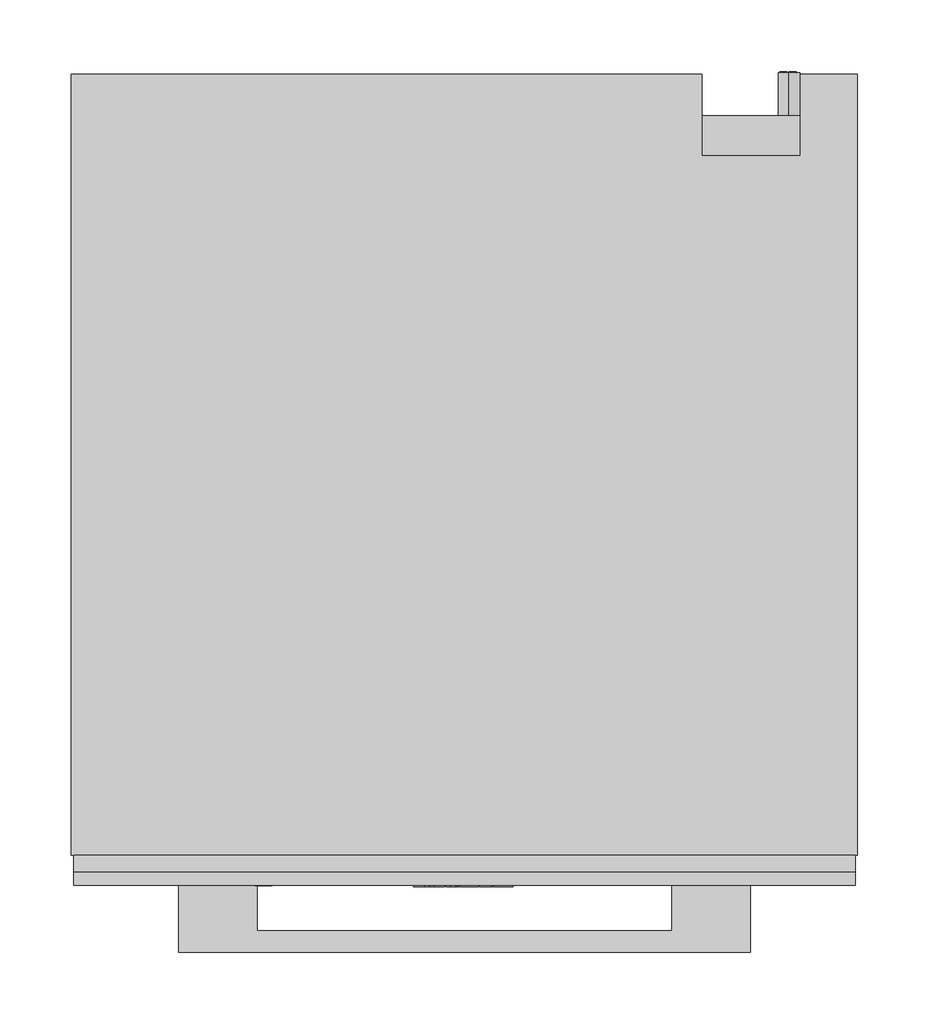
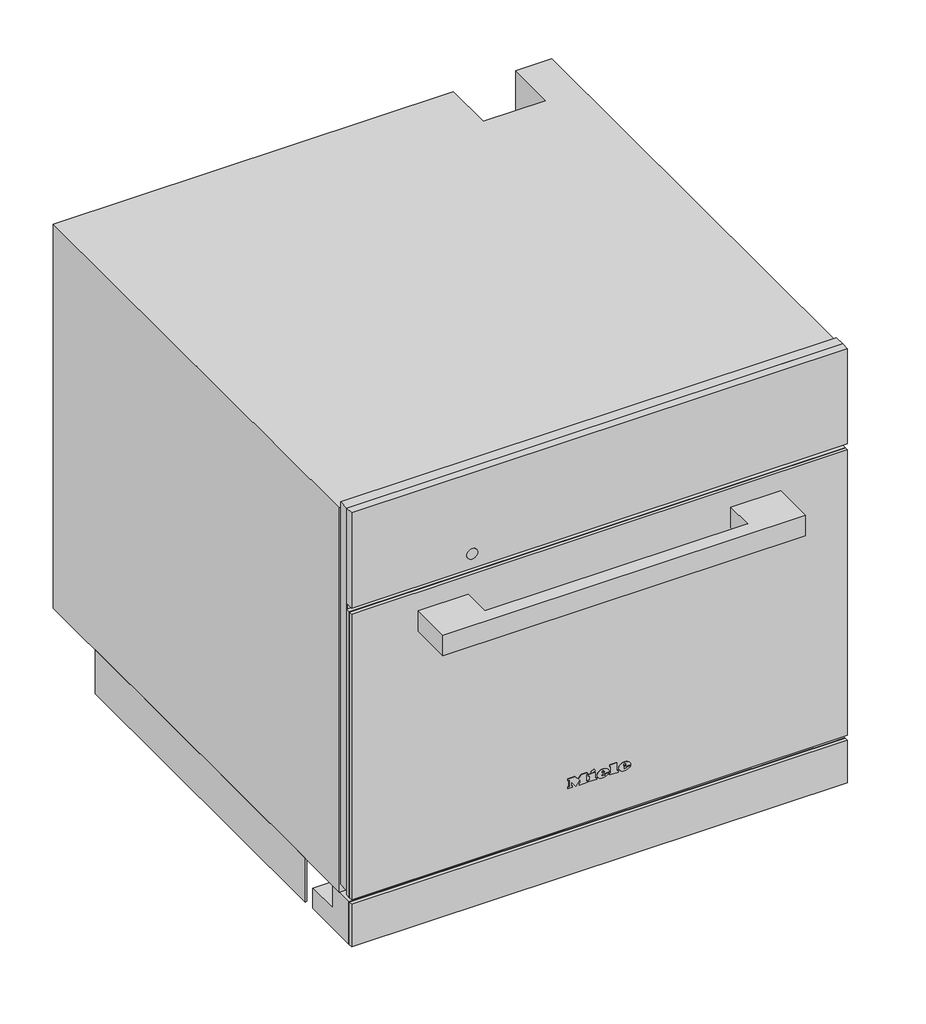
# Not in any storey: 1 proxy.
"""IFC4 building model written with IfcOpenShell, lengths in millimetres."""

from ifc_helpers import new_model, si_unit, origin, place, context, project, spatial, transform, mapped, element, save
from components import specialty_equipment_7937b18a

model = new_model("IFC4")

# Units and contexts
model_context = context("Model", 3, world=origin())
ifc_project = project(units=[si_unit("LENGTHUNIT", "METRE", prefix="MILLI")], contexts=[model_context])

# Site, building
site = spatial("IfcSite", under=ifc_project)
building = spatial("IfcBuilding", under=site)

# Proxy
placement = place(None, origin())
specialty_equipment_shape = specialty_equipment_7937b18a(model_context)
element("IfcBuildingElementProxy", 1, Name="12496800_CH_DGC7640-55_OBSW : 23764021_CH_12496800_DGC7640-55_OBSW", ObjectType="12496800_CH_DGC7640-55_OBSW : 23764021_CH_12496800_DGC7640-55_OBSW", at=placement, inside=building, context=model_context, shape_type="MappedRepresentation", body=[
    mapped(specialty_equipment_shape, transform((0.0, 0.0, 0.0), x_axis=(1.0, 0.0, 0.0), y_axis=(0.0, 1.0, 0.0), z_axis=(0.0, 0.0, 1.0))),
])

save(model, "model.ifc")
